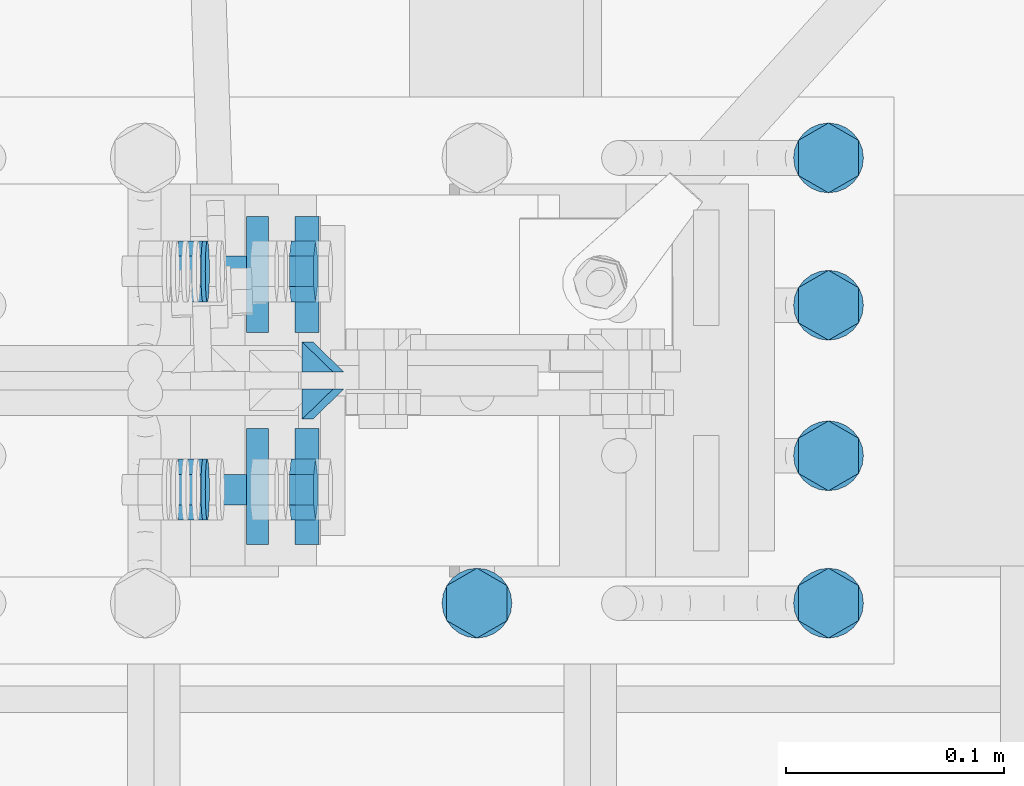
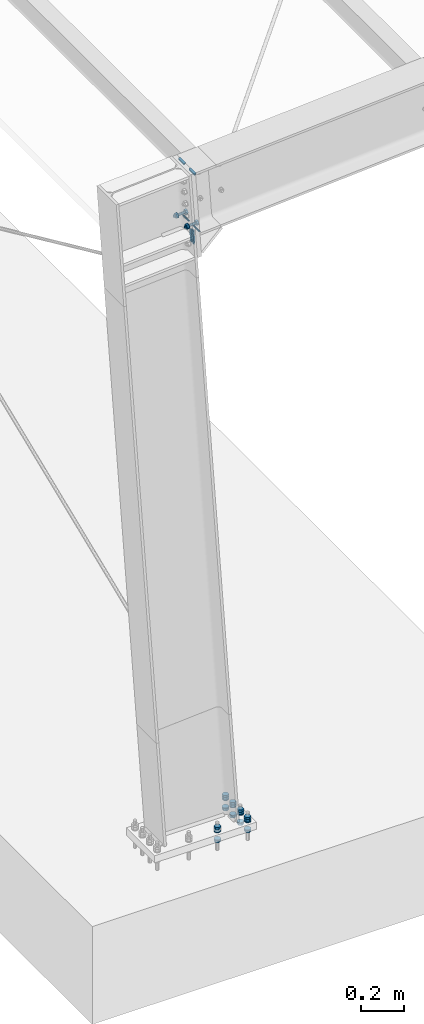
# One storey, part 27 of 72: 32 mechanical fasteners, 12 fasteners.
"""IFC4 building model written with IfcOpenShell, lengths in metres."""

from ifc_helpers import new_model, si_unit, frame, origin_with_axes, place, context, project, spatial, polyline, outline, extrude, type_object, element, save


model = new_model("IFC4")

# Units and contexts
model_context = context("Model", 3, precision=1e-05, world=origin_with_axes())
ifc_project = project(units=[si_unit("LENGTHUNIT", "METRE"), si_unit("AREAUNIT", "SQUARE_METRE"), si_unit("VOLUMEUNIT", "CUBIC_METRE"), si_unit("MASSUNIT", "GRAM", prefix="KILO"), si_unit("TIMEUNIT", "SECOND"), si_unit("PLANEANGLEUNIT", "RADIAN"), si_unit("SOLIDANGLEUNIT", "STERADIAN"), si_unit("THERMODYNAMICTEMPERATUREUNIT", "DEGREE_CELSIUS")], contexts=[model_context])

# Site, building, storey
placement_1 = place(None, origin_with_axes())
site = spatial("IfcSite", under=ifc_project, at=placement_1, Name="Italia", CompositionType="ELEMENT")
building = spatial("IfcBuilding", under=site, at=placement_1, Name="Pensilina", CompositionType="ELEMENT")
storey = spatial("IfcBuildingStorey", under=building, at=placement_1, Name="Storey 0", CompositionType="ELEMENT", Elevation=0.0)

# Mechanical fasteners
mechanical_fastener_type_1 = type_object("IfcMechanicalFastenerType", Name="Collegamento 0001_-196", PredefinedType="BOLT")
placement_2 = place(placement_1, origin_with_axes())
mechanical_fastener_1_placement = place(placement_2, origin_with_axes())
element("IfcMechanicalFastener", 1, at=mechanical_fastener_1_placement, inside=storey, type_object=mechanical_fastener_type_1, Name="Collegamento 0001_-196", NominalDiameter=0.016, context=model_context, shape_type="SweptSolid", body=[
    extrude(outline(polyline([(0.0, 0.0, 0.0), (0.016, 0.0, 0.0), (0.024, -0.0138565, 0.0), (0.016, -0.0277129, 0.0), (0.0, -0.0277129, 0.0), (-0.008, -0.0138565, 0.0), (0.0, 0.0, 0.0)])), frame((0.99419, -0.11, 0.120508), z_axis=(0.0, 0.0, 1.0), x_axis=(0.0, 1.0, 0.0)), (0.0, 0.0, 1.0), 0.0128),
])
mechanical_fastener_type_2 = type_object("IfcMechanicalFastenerType", Name="Collegamento 0001_-196", PredefinedType="BOLT")
mechanical_fastener_2_placement = place(placement_2, origin_with_axes())
element("IfcMechanicalFastener", 2, at=mechanical_fastener_2_placement, inside=storey, type_object=mechanical_fastener_type_2, Name="Collegamento 0001_-196", NominalDiameter=0.016, context=model_context, shape_type="SweptSolid", body=[
    extrude(outline(polyline([(0.0, 0.0, 0.0), (0.016, 0.0, 0.0), (0.024, -0.0138565, 0.0), (0.016, -0.0277129, 0.0), (0.0, -0.0277129, 0.0), (-0.008, -0.0138565, 0.0), (0.0, 0.0, 0.0)])), frame((0.99419, -0.11, 0.0469081), z_axis=(0.0, 0.0, 1.0), x_axis=(0.0, 1.0, 0.0)), (0.0, 0.0, 1.0), 0.0128),
])
mechanical_fastener_type_3 = type_object("IfcMechanicalFastenerType", Name="Collegamento 0001_-196", PredefinedType="BOLT")
mechanical_fastener_3_placement = place(placement_2, origin_with_axes())
element("IfcMechanicalFastener", 3, at=mechanical_fastener_3_placement, inside=storey, type_object=mechanical_fastener_type_3, Name="Collegamento 0001_-196", NominalDiameter=0.032, context=model_context, shape_type="SweptSolid", body=[
    extrude(outline(polyline([(0.0, 0.0, 0.0), (-0.000545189, -0.00414109, 0.0), (-0.00214359, -0.00800002, 0.0), (-0.0046863, -0.0113137, 0.0), (-0.008, -0.0138564, 0.0), (-0.0118589, -0.0154548, 0.0), (-0.016, -0.016, 0.0), (-0.0201411, -0.0154548, 0.0), (-0.024, -0.0138564, 0.0), (-0.0273137, -0.0113137, 0.0), (-0.0298564, -0.00800002, 0.0), (-0.0314548, -0.00414109, 0.0), (-0.032, 0.0, 0.0), (-0.0314548, 0.00414109, 0.0), (-0.0298564, 0.00800002, 0.0), (-0.0273137, 0.0113137, 0.0), (-0.024, 0.0138564, 0.0), (-0.0201411, 0.0154548, 0.0), (-0.016, 0.016, 0.0), (-0.0118589, 0.0154548, 0.0), (-0.008, 0.0138564, 0.0), (-0.0046863, 0.0113137, 0.0), (-0.00214359, 0.00800002, 0.0), (-0.000545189, 0.00414109, 0.0), (0.0, 0.0, 0.0)])), frame((1.00805, -0.086, 0.103708), z_axis=(0.0, 0.0, 1.0), x_axis=(0.0, 1.0, 0.0)), (0.0, 0.0, 1.0), 0.004),
])
mechanical_fastener_type_4 = type_object("IfcMechanicalFastenerType", Name="Collegamento 0001_-196", PredefinedType="BOLT")
mechanical_fastener_4_placement = place(placement_2, origin_with_axes())
element("IfcMechanicalFastener", 4, at=mechanical_fastener_4_placement, inside=storey, type_object=mechanical_fastener_type_4, Name="Collegamento 0001_-196", NominalDiameter=0.032, context=model_context, shape_type="SweptSolid", body=[
    extrude(outline(polyline([(0.0, 0.0, 0.0), (-0.000545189, -0.00414109, 0.0), (-0.00214359, -0.00800002, 0.0), (-0.0046863, -0.0113137, 0.0), (-0.008, -0.0138564, 0.0), (-0.0118589, -0.0154548, 0.0), (-0.016, -0.016, 0.0), (-0.0201411, -0.0154548, 0.0), (-0.024, -0.0138564, 0.0), (-0.0273137, -0.0113137, 0.0), (-0.0298564, -0.00800002, 0.0), (-0.0314548, -0.00414109, 0.0), (-0.032, 0.0, 0.0), (-0.0314548, 0.00414109, 0.0), (-0.0298564, 0.00800002, 0.0), (-0.0273137, 0.0113137, 0.0), (-0.024, 0.0138564, 0.0), (-0.0201411, 0.0154548, 0.0), (-0.016, 0.016, 0.0), (-0.0118589, 0.0154548, 0.0), (-0.008, 0.0138564, 0.0), (-0.0046863, 0.0113137, 0.0), (-0.00214359, 0.00800002, 0.0), (-0.000545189, 0.00414109, 0.0), (0.0, 0.0, 0.0)])), frame((1.00805, -0.086, 0.0597081), z_axis=(0.0, 0.0, 1.0), x_axis=(0.0, 1.0, 0.0)), (0.0, 0.0, 1.0), 0.004),
])
mechanical_fastener_type_5 = type_object("IfcMechanicalFastenerType", Name="Collegamento 0001_-196", PredefinedType="BOLT")
mechanical_fastener_5_placement = place(placement_2, origin_with_axes())
element("IfcMechanicalFastener", 5, at=mechanical_fastener_5_placement, inside=storey, type_object=mechanical_fastener_type_5, Name="Collegamento 0001_-196", NominalDiameter=0.016, context=model_context, shape_type="SweptSolid", body=[
    extrude(outline(polyline([(0.0, 0.0, 0.0), (0.016, 0.0, 0.0), (0.024, -0.0138564, 0.0), (0.016, -0.0277128, 0.0), (0.0, -0.0277128, 0.0), (-0.008, -0.0138564, 0.0), (0.0, 0.0, 0.0)])), frame((1.15527, 0.094, 0.107708), z_axis=(0.0, 0.0, 1.0), x_axis=(0.0, 1.0, 0.0)), (0.0, 0.0, 1.0), 0.0128),
])
mechanical_fastener_type_6 = type_object("IfcMechanicalFastenerType", Name="Collegamento 0001_-196", PredefinedType="BOLT")
mechanical_fastener_6_placement = place(placement_2, origin_with_axes())
element("IfcMechanicalFastener", 6, at=mechanical_fastener_6_placement, inside=storey, type_object=mechanical_fastener_type_6, Name="Collegamento 0001_-196", NominalDiameter=0.016, context=model_context, shape_type="SweptSolid", body=[
    extrude(outline(polyline([(0.0, 0.0, 0.0), (0.016, 0.0, 0.0), (0.024, -0.0138564, 0.0), (0.016, -0.0277128, 0.0), (0.0, -0.0277128, 0.0), (-0.008, -0.0138564, 0.0), (0.0, 0.0, 0.0)])), frame((1.15527, 0.094, 0.120508), z_axis=(0.0, 0.0, 1.0), x_axis=(0.0, 1.0, 0.0)), (0.0, 0.0, 1.0), 0.0128),
])
mechanical_fastener_type_7 = type_object("IfcMechanicalFastenerType", Name="Collegamento 0001_-196", PredefinedType="BOLT")
mechanical_fastener_7_placement = place(placement_2, origin_with_axes())
element("IfcMechanicalFastener", 7, at=mechanical_fastener_7_placement, inside=storey, type_object=mechanical_fastener_type_7, Name="Collegamento 0001_-196", NominalDiameter=0.016, context=model_context, shape_type="SweptSolid", body=[
    extrude(outline(polyline([(0.0, 0.0, 0.0), (0.016, 0.0, 0.0), (0.024, -0.0138564, 0.0), (0.016, -0.0277128, 0.0), (0.0, -0.0277128, 0.0), (-0.008, -0.0138564, 0.0), (0.0, 0.0, 0.0)])), frame((1.15527, 0.094, 0.0469081), z_axis=(0.0, 0.0, 1.0), x_axis=(0.0, 1.0, 0.0)), (0.0, 0.0, 1.0), 0.0128),
])
mechanical_fastener_type_8 = type_object("IfcMechanicalFastenerType", Name="Collegamento 0001_-196", PredefinedType="BOLT")
mechanical_fastener_8_placement = place(placement_2, origin_with_axes())
element("IfcMechanicalFastener", 8, at=mechanical_fastener_8_placement, inside=storey, type_object=mechanical_fastener_type_8, Name="Collegamento 0001_-196", NominalDiameter=0.032, context=model_context, shape_type="SweptSolid", body=[
    extrude(outline(polyline([(0.0, 0.0, 0.0), (-0.000545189, -0.00414109, 0.0), (-0.00214359, -0.00800002, 0.0), (-0.0046863, -0.0113137, 0.0), (-0.008, -0.0138564, 0.0), (-0.0118589, -0.0154548, 0.0), (-0.016, -0.016, 0.0), (-0.0201411, -0.0154548, 0.0), (-0.024, -0.0138564, 0.0), (-0.0273137, -0.0113137, 0.0), (-0.0298564, -0.00800002, 0.0), (-0.0314548, -0.00414109, 0.0), (-0.032, 0.0, 0.0), (-0.0314548, 0.00414109, 0.0), (-0.0298564, 0.00800002, 0.0), (-0.0273137, 0.0113137, 0.0), (-0.024, 0.0138564, 0.0), (-0.0201411, 0.0154548, 0.0), (-0.016, 0.016, 0.0), (-0.0118589, 0.0154548, 0.0), (-0.008, 0.0138564, 0.0), (-0.0046863, 0.0113137, 0.0), (-0.00214359, 0.00800002, 0.0), (-0.000545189, 0.00414109, 0.0), (0.0, 0.0, 0.0)])), frame((1.16913, 0.118, 0.103708), z_axis=(0.0, 0.0, 1.0), x_axis=(0.0, 1.0, 0.0)), (0.0, 0.0, 1.0), 0.004),
])
mechanical_fastener_type_9 = type_object("IfcMechanicalFastenerType", Name="Collegamento 0001_-196", PredefinedType="BOLT")
mechanical_fastener_9_placement = place(placement_2, origin_with_axes())
element("IfcMechanicalFastener", 9, at=mechanical_fastener_9_placement, inside=storey, type_object=mechanical_fastener_type_9, Name="Collegamento 0001_-196", NominalDiameter=0.032, context=model_context, shape_type="SweptSolid", body=[
    extrude(outline(polyline([(0.0, 0.0, 0.0), (-0.000545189, -0.00414109, 0.0), (-0.00214359, -0.00800002, 0.0), (-0.0046863, -0.0113137, 0.0), (-0.008, -0.0138564, 0.0), (-0.0118589, -0.0154548, 0.0), (-0.016, -0.016, 0.0), (-0.0201411, -0.0154548, 0.0), (-0.024, -0.0138564, 0.0), (-0.0273137, -0.0113137, 0.0), (-0.0298564, -0.00800002, 0.0), (-0.0314548, -0.00414109, 0.0), (-0.032, 0.0, 0.0), (-0.0314548, 0.00414109, 0.0), (-0.0298564, 0.00800002, 0.0), (-0.0273137, 0.0113137, 0.0), (-0.024, 0.0138564, 0.0), (-0.0201411, 0.0154548, 0.0), (-0.016, 0.016, 0.0), (-0.0118589, 0.0154548, 0.0), (-0.008, 0.0138564, 0.0), (-0.0046863, 0.0113137, 0.0), (-0.00214359, 0.00800002, 0.0), (-0.000545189, 0.00414109, 0.0), (0.0, 0.0, 0.0)])), frame((1.16913, 0.118, 0.0597081), z_axis=(0.0, 0.0, 1.0), x_axis=(0.0, 1.0, 0.0)), (0.0, 0.0, 1.0), 0.004),
])
mechanical_fastener_type_10 = type_object("IfcMechanicalFastenerType", Name="Collegamento 0001_-196", PredefinedType="BOLT")
mechanical_fastener_10_placement = place(placement_2, origin_with_axes())
element("IfcMechanicalFastener", 10, at=mechanical_fastener_10_placement, inside=storey, type_object=mechanical_fastener_type_10, Name="Collegamento 0001_-196", NominalDiameter=0.016, context=model_context, shape_type="SweptSolid", body=[
    extrude(outline(polyline([(0.0, 0.0, 0.0), (0.016, 0.0, 0.0), (0.024, -0.0138564, 0.0), (0.016, -0.0277128, 0.0), (0.0, -0.0277128, 0.0), (-0.008, -0.0138564, 0.0), (0.0, 0.0, 0.0)])), frame((1.15527, 0.0265, 0.107708), z_axis=(0.0, 0.0, 1.0), x_axis=(0.0, 1.0, 0.0)), (0.0, 0.0, 1.0), 0.0128),
])
mechanical_fastener_type_11 = type_object("IfcMechanicalFastenerType", Name="Collegamento 0001_-196", PredefinedType="BOLT")
mechanical_fastener_11_placement = place(placement_2, origin_with_axes())
element("IfcMechanicalFastener", 11, at=mechanical_fastener_11_placement, inside=storey, type_object=mechanical_fastener_type_11, Name="Collegamento 0001_-196", NominalDiameter=0.016, context=model_context, shape_type="SweptSolid", body=[
    extrude(outline(polyline([(0.0, 0.0, 0.0), (0.016, 0.0, 0.0), (0.024, -0.0138564, 0.0), (0.016, -0.0277128, 0.0), (0.0, -0.0277128, 0.0), (-0.008, -0.0138564, 0.0), (0.0, 0.0, 0.0)])), frame((1.15527, 0.0265, 0.120508), z_axis=(0.0, 0.0, 1.0), x_axis=(0.0, 1.0, 0.0)), (0.0, 0.0, 1.0), 0.0128),
])
mechanical_fastener_type_12 = type_object("IfcMechanicalFastenerType", Name="Collegamento 0001_-196", PredefinedType="BOLT")
mechanical_fastener_12_placement = place(placement_2, origin_with_axes())
element("IfcMechanicalFastener", 12, at=mechanical_fastener_12_placement, inside=storey, type_object=mechanical_fastener_type_12, Name="Collegamento 0001_-196", NominalDiameter=0.016, context=model_context, shape_type="SweptSolid", body=[
    extrude(outline(polyline([(0.0, 0.0, 0.0), (0.016, 0.0, 0.0), (0.024, -0.0138564, 0.0), (0.016, -0.0277128, 0.0), (0.0, -0.0277128, 0.0), (-0.008, -0.0138564, 0.0), (0.0, 0.0, 0.0)])), frame((1.15527, 0.0265, 0.0469081), z_axis=(0.0, 0.0, 1.0), x_axis=(0.0, 1.0, 0.0)), (0.0, 0.0, 1.0), 0.0128),
])
mechanical_fastener_type_13 = type_object("IfcMechanicalFastenerType", Name="Collegamento 0001_-196", PredefinedType="BOLT")
mechanical_fastener_13_placement = place(placement_2, origin_with_axes())
element("IfcMechanicalFastener", 13, at=mechanical_fastener_13_placement, inside=storey, type_object=mechanical_fastener_type_13, Name="Collegamento 0001_-196", NominalDiameter=0.032, context=model_context, shape_type="SweptSolid", body=[
    extrude(outline(polyline([(0.0, 0.0, 0.0), (-0.000545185, -0.00414109, 0.0), (-0.00214359, -0.00800002, 0.0), (-0.00468629, -0.0113137, 0.0), (-0.008, -0.0138564, 0.0), (-0.0118589, -0.0154548, 0.0), (-0.016, -0.016, 0.0), (-0.0201411, -0.0154548, 0.0), (-0.024, -0.0138564, 0.0), (-0.0273137, -0.0113137, 0.0), (-0.0298564, -0.00800002, 0.0), (-0.0314548, -0.00414109, 0.0), (-0.032, 0.0, 0.0), (-0.0314548, 0.00414109, 0.0), (-0.0298564, 0.00800002, 0.0), (-0.0273137, 0.0113137, 0.0), (-0.024, 0.0138564, 0.0), (-0.0201411, 0.0154548, 0.0), (-0.016, 0.016, 0.0), (-0.0118589, 0.0154548, 0.0), (-0.008, 0.0138564, 0.0), (-0.00468629, 0.0113137, 0.0), (-0.00214359, 0.00800002, 0.0), (-0.000545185, 0.00414109, 0.0), (0.0, 0.0, 0.0)])), frame((1.16913, 0.0505, 0.103708), z_axis=(0.0, 0.0, 1.0), x_axis=(0.0, 1.0, 0.0)), (0.0, 0.0, 1.0), 0.004),
])
mechanical_fastener_type_14 = type_object("IfcMechanicalFastenerType", Name="Collegamento 0001_-196", PredefinedType="BOLT")
mechanical_fastener_14_placement = place(placement_2, origin_with_axes())
element("IfcMechanicalFastener", 14, at=mechanical_fastener_14_placement, inside=storey, type_object=mechanical_fastener_type_14, Name="Collegamento 0001_-196", NominalDiameter=0.032, context=model_context, shape_type="SweptSolid", body=[
    extrude(outline(polyline([(0.0, 0.0, 0.0), (-0.000545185, -0.00414109, 0.0), (-0.00214359, -0.00800002, 0.0), (-0.00468629, -0.0113137, 0.0), (-0.008, -0.0138564, 0.0), (-0.0118589, -0.0154548, 0.0), (-0.016, -0.016, 0.0), (-0.0201411, -0.0154548, 0.0), (-0.024, -0.0138564, 0.0), (-0.0273137, -0.0113137, 0.0), (-0.0298564, -0.00800002, 0.0), (-0.0314548, -0.00414109, 0.0), (-0.032, 0.0, 0.0), (-0.0314548, 0.00414109, 0.0), (-0.0298564, 0.00800002, 0.0), (-0.0273137, 0.0113137, 0.0), (-0.024, 0.0138564, 0.0), (-0.0201411, 0.0154548, 0.0), (-0.016, 0.016, 0.0), (-0.0118589, 0.0154548, 0.0), (-0.008, 0.0138564, 0.0), (-0.00468629, 0.0113137, 0.0), (-0.00214359, 0.00800002, 0.0), (-0.000545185, 0.00414109, 0.0), (0.0, 0.0, 0.0)])), frame((1.16913, 0.0505, 0.0597081), z_axis=(0.0, 0.0, 1.0), x_axis=(0.0, 1.0, 0.0)), (0.0, 0.0, 1.0), 0.004),
])
mechanical_fastener_type_15 = type_object("IfcMechanicalFastenerType", Name="Collegamento 0001_-196", PredefinedType="BOLT")
mechanical_fastener_15_placement = place(placement_2, origin_with_axes())
element("IfcMechanicalFastener", 15, at=mechanical_fastener_15_placement, inside=storey, type_object=mechanical_fastener_type_15, Name="Collegamento 0001_-196", NominalDiameter=0.016, context=model_context, shape_type="SweptSolid", body=[
    extrude(outline(polyline([(0.0, 0.0, 0.0), (0.016, 0.0, 0.0), (0.024, -0.0138564, 0.0), (0.016, -0.0277128, 0.0), (0.0, -0.0277128, 0.0), (-0.008, -0.0138564, 0.0), (0.0, 0.0, 0.0)])), frame((1.15527, -0.0425, 0.107708), z_axis=(0.0, 0.0, 1.0), x_axis=(0.0, 1.0, 0.0)), (0.0, 0.0, 1.0), 0.0128),
])
mechanical_fastener_type_16 = type_object("IfcMechanicalFastenerType", Name="Collegamento 0001_-196", PredefinedType="BOLT")
mechanical_fastener_16_placement = place(placement_2, origin_with_axes())
element("IfcMechanicalFastener", 16, at=mechanical_fastener_16_placement, inside=storey, type_object=mechanical_fastener_type_16, Name="Collegamento 0001_-196", NominalDiameter=0.016, context=model_context, shape_type="SweptSolid", body=[
    extrude(outline(polyline([(0.0, 0.0, 0.0), (0.016, 0.0, 0.0), (0.024, -0.0138564, 0.0), (0.016, -0.0277128, 0.0), (0.0, -0.0277128, 0.0), (-0.008, -0.0138564, 0.0), (0.0, 0.0, 0.0)])), frame((1.15527, -0.0425, 0.120508), z_axis=(0.0, 0.0, 1.0), x_axis=(0.0, 1.0, 0.0)), (0.0, 0.0, 1.0), 0.0128),
])
mechanical_fastener_type_17 = type_object("IfcMechanicalFastenerType", Name="Collegamento 0001_-196", PredefinedType="BOLT")
mechanical_fastener_17_placement = place(placement_2, origin_with_axes())
element("IfcMechanicalFastener", 17, at=mechanical_fastener_17_placement, inside=storey, type_object=mechanical_fastener_type_17, Name="Collegamento 0001_-196", NominalDiameter=0.016, context=model_context, shape_type="SweptSolid", body=[
    extrude(outline(polyline([(0.0, 0.0, 0.0), (0.016, 0.0, 0.0), (0.024, -0.0138564, 0.0), (0.016, -0.0277128, 0.0), (0.0, -0.0277128, 0.0), (-0.008, -0.0138564, 0.0), (0.0, 0.0, 0.0)])), frame((1.15527, -0.0425, 0.0469081), z_axis=(0.0, 0.0, 1.0), x_axis=(0.0, 1.0, 0.0)), (0.0, 0.0, 1.0), 0.0128),
])
mechanical_fastener_type_18 = type_object("IfcMechanicalFastenerType", Name="Collegamento 0001_-196", PredefinedType="BOLT")
mechanical_fastener_18_placement = place(placement_2, origin_with_axes())
element("IfcMechanicalFastener", 18, at=mechanical_fastener_18_placement, inside=storey, type_object=mechanical_fastener_type_18, Name="Collegamento 0001_-196", NominalDiameter=0.032, context=model_context, shape_type="SweptSolid", body=[
    extrude(outline(polyline([(0.0, 0.0, 0.0), (-0.000545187, -0.00414109, 0.0), (-0.00214359, -0.00800002, 0.0), (-0.00468629, -0.0113137, 0.0), (-0.008, -0.0138564, 0.0), (-0.0118589, -0.0154548, 0.0), (-0.016, -0.016, 0.0), (-0.0201411, -0.0154548, 0.0), (-0.024, -0.0138564, 0.0), (-0.0273137, -0.0113137, 0.0), (-0.0298564, -0.00800002, 0.0), (-0.0314548, -0.00414109, 0.0), (-0.032, 0.0, 0.0), (-0.0314548, 0.00414109, 0.0), (-0.0298564, 0.00800002, 0.0), (-0.0273137, 0.0113137, 0.0), (-0.024, 0.0138564, 0.0), (-0.0201411, 0.0154548, 0.0), (-0.016, 0.016, 0.0), (-0.0118589, 0.0154548, 0.0), (-0.008, 0.0138564, 0.0), (-0.00468629, 0.0113137, 0.0), (-0.00214359, 0.00800002, 0.0), (-0.000545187, 0.00414109, 0.0), (0.0, 0.0, 0.0)])), frame((1.16913, -0.0185, 0.103708), z_axis=(0.0, 0.0, 1.0), x_axis=(0.0, 1.0, 0.0)), (0.0, 0.0, 1.0), 0.004),
])
mechanical_fastener_type_19 = type_object("IfcMechanicalFastenerType", Name="Collegamento 0001_-196", PredefinedType="BOLT")
mechanical_fastener_19_placement = place(placement_2, origin_with_axes())
element("IfcMechanicalFastener", 19, at=mechanical_fastener_19_placement, inside=storey, type_object=mechanical_fastener_type_19, Name="Collegamento 0001_-196", NominalDiameter=0.032, context=model_context, shape_type="SweptSolid", body=[
    extrude(outline(polyline([(0.0, 0.0, 0.0), (-0.000545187, -0.00414109, 0.0), (-0.00214359, -0.00800002, 0.0), (-0.00468629, -0.0113137, 0.0), (-0.008, -0.0138564, 0.0), (-0.0118589, -0.0154548, 0.0), (-0.016, -0.016, 0.0), (-0.0201411, -0.0154548, 0.0), (-0.024, -0.0138564, 0.0), (-0.0273137, -0.0113137, 0.0), (-0.0298564, -0.00800002, 0.0), (-0.0314548, -0.00414109, 0.0), (-0.032, 0.0, 0.0), (-0.0314548, 0.00414109, 0.0), (-0.0298564, 0.00800002, 0.0), (-0.0273137, 0.0113137, 0.0), (-0.024, 0.0138564, 0.0), (-0.0201411, 0.0154548, 0.0), (-0.016, 0.016, 0.0), (-0.0118589, 0.0154548, 0.0), (-0.008, 0.0138564, 0.0), (-0.00468629, 0.0113137, 0.0), (-0.00214359, 0.00800002, 0.0), (-0.000545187, 0.00414109, 0.0), (0.0, 0.0, 0.0)])), frame((1.16913, -0.0185, 0.0597081), z_axis=(0.0, 0.0, 1.0), x_axis=(0.0, 1.0, 0.0)), (0.0, 0.0, 1.0), 0.004),
])
mechanical_fastener_type_20 = type_object("IfcMechanicalFastenerType", Name="Collegamento 0001_-196", PredefinedType="BOLT")
mechanical_fastener_20_placement = place(placement_2, origin_with_axes())
element("IfcMechanicalFastener", 20, at=mechanical_fastener_20_placement, inside=storey, type_object=mechanical_fastener_type_20, Name="Collegamento 0001_-196", NominalDiameter=0.016, context=model_context, shape_type="SweptSolid", body=[
    extrude(outline(polyline([(0.0, 0.0, 0.0), (0.016, 0.0, 0.0), (0.024, -0.0138564, 0.0), (0.016, -0.0277128, 0.0), (0.0, -0.0277128, 0.0), (-0.008, -0.0138564, 0.0), (0.0, 0.0, 0.0)])), frame((1.15527, -0.11, 0.107708), z_axis=(0.0, 0.0, 1.0), x_axis=(0.0, 1.0, 0.0)), (0.0, 0.0, 1.0), 0.0128),
])
mechanical_fastener_type_21 = type_object("IfcMechanicalFastenerType", Name="Collegamento 0001_-196", PredefinedType="BOLT")
mechanical_fastener_21_placement = place(placement_2, origin_with_axes())
element("IfcMechanicalFastener", 21, at=mechanical_fastener_21_placement, inside=storey, type_object=mechanical_fastener_type_21, Name="Collegamento 0001_-196", NominalDiameter=0.016, context=model_context, shape_type="SweptSolid", body=[
    extrude(outline(polyline([(0.0, 0.0, 0.0), (0.016, 0.0, 0.0), (0.024, -0.0138564, 0.0), (0.016, -0.0277128, 0.0), (0.0, -0.0277128, 0.0), (-0.008, -0.0138564, 0.0), (0.0, 0.0, 0.0)])), frame((1.15527, -0.11, 0.120508), z_axis=(0.0, 0.0, 1.0), x_axis=(0.0, 1.0, 0.0)), (0.0, 0.0, 1.0), 0.0128),
])
mechanical_fastener_type_22 = type_object("IfcMechanicalFastenerType", Name="Collegamento 0001_-196", PredefinedType="BOLT")
mechanical_fastener_22_placement = place(placement_2, origin_with_axes())
element("IfcMechanicalFastener", 22, at=mechanical_fastener_22_placement, inside=storey, type_object=mechanical_fastener_type_22, Name="Collegamento 0001_-196", NominalDiameter=0.016, context=model_context, shape_type="SweptSolid", body=[
    extrude(outline(polyline([(0.0, 0.0, 0.0), (0.016, 0.0, 0.0), (0.024, -0.0138564, 0.0), (0.016, -0.0277128, 0.0), (0.0, -0.0277128, 0.0), (-0.008, -0.0138564, 0.0), (0.0, 0.0, 0.0)])), frame((1.15527, -0.11, 0.0469081), z_axis=(0.0, 0.0, 1.0), x_axis=(0.0, 1.0, 0.0)), (0.0, 0.0, 1.0), 0.0128),
])
mechanical_fastener_type_23 = type_object("IfcMechanicalFastenerType", Name="Collegamento 0001_-196", PredefinedType="BOLT")
mechanical_fastener_23_placement = place(placement_2, origin_with_axes())
element("IfcMechanicalFastener", 23, at=mechanical_fastener_23_placement, inside=storey, type_object=mechanical_fastener_type_23, Name="Collegamento 0001_-196", NominalDiameter=0.032, context=model_context, shape_type="SweptSolid", body=[
    extrude(outline(polyline([(0.0, 0.0, 0.0), (-0.000545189, -0.00414109, 0.0), (-0.00214359, -0.00800002, 0.0), (-0.0046863, -0.0113137, 0.0), (-0.008, -0.0138564, 0.0), (-0.0118589, -0.0154548, 0.0), (-0.016, -0.016, 0.0), (-0.0201411, -0.0154548, 0.0), (-0.024, -0.0138564, 0.0), (-0.0273137, -0.0113137, 0.0), (-0.0298564, -0.00800002, 0.0), (-0.0314548, -0.00414109, 0.0), (-0.032, 0.0, 0.0), (-0.0314548, 0.00414109, 0.0), (-0.0298564, 0.00800002, 0.0), (-0.0273137, 0.0113137, 0.0), (-0.024, 0.0138564, 0.0), (-0.0201411, 0.0154548, 0.0), (-0.016, 0.016, 0.0), (-0.0118589, 0.0154548, 0.0), (-0.008, 0.0138564, 0.0), (-0.0046863, 0.0113137, 0.0), (-0.00214359, 0.00800002, 0.0), (-0.000545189, 0.00414109, 0.0), (0.0, 0.0, 0.0)])), frame((1.16913, -0.086, 0.103708), z_axis=(0.0, 0.0, 1.0), x_axis=(0.0, 1.0, 0.0)), (0.0, 0.0, 1.0), 0.004),
])
mechanical_fastener_type_24 = type_object("IfcMechanicalFastenerType", Name="Collegamento 0001_-196", PredefinedType="BOLT")
mechanical_fastener_24_placement = place(placement_2, origin_with_axes())
element("IfcMechanicalFastener", 24, at=mechanical_fastener_24_placement, inside=storey, type_object=mechanical_fastener_type_24, Name="Collegamento 0001_-196", NominalDiameter=0.032, context=model_context, shape_type="SweptSolid", body=[
    extrude(outline(polyline([(0.0, 0.0, 0.0), (-0.000545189, -0.00414109, 0.0), (-0.00214359, -0.00800002, 0.0), (-0.0046863, -0.0113137, 0.0), (-0.008, -0.0138564, 0.0), (-0.0118589, -0.0154548, 0.0), (-0.016, -0.016, 0.0), (-0.0201411, -0.0154548, 0.0), (-0.024, -0.0138564, 0.0), (-0.0273137, -0.0113137, 0.0), (-0.0298564, -0.00800002, 0.0), (-0.0314548, -0.00414109, 0.0), (-0.032, 0.0, 0.0), (-0.0314548, 0.00414109, 0.0), (-0.0298564, 0.00800002, 0.0), (-0.0273137, 0.0113137, 0.0), (-0.024, 0.0138564, 0.0), (-0.0201411, 0.0154548, 0.0), (-0.016, 0.016, 0.0), (-0.0118589, 0.0154548, 0.0), (-0.008, 0.0138564, 0.0), (-0.0046863, 0.0113137, 0.0), (-0.00214359, 0.00800002, 0.0), (-0.000545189, 0.00414109, 0.0), (0.0, 0.0, 0.0)])), frame((1.16913, -0.086, 0.0597081), z_axis=(0.0, 0.0, 1.0), x_axis=(0.0, 1.0, 0.0)), (0.0, 0.0, 1.0), 0.004),
])

# Fasteners
fastener_type_1 = type_object("IfcFastenerType", Name="Collegamento 0101_0201", PredefinedType="WELD")
fastener_1_placement = place(placement_2, origin_with_axes())
element("IfcFastener", 25, at=fastener_1_placement, inside=storey, type_object=fastener_type_1, Name="Collegamento 0101_0201", context=model_context, shape_type="SweptSolid", body=[
    extrude(outline(polyline([(0.0, 0.0, 0.0), (-0.00947309, 0.0105422, 0.0), (0.000676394, 0.00984502, 0.0), (0.0, 0.0, 0.0)])), frame((0.903157, 0.02195, 3.80624), z_axis=(0.0, 1.0, 0.0), x_axis=(-1.0, 0.0, 0.0)), (0.0, 0.0, 1.0), 0.0531),
])
fastener_type_2 = type_object("IfcFastenerType", Name="Collegamento 0101_0201", PredefinedType="WELD")
fastener_2_placement = place(placement_2, origin_with_axes())
element("IfcFastener", 26, at=fastener_2_placement, inside=storey, type_object=fastener_type_2, Name="Collegamento 0101_0201", context=model_context, shape_type="SweptSolid", body=[
    extrude(outline(polyline([(0.0, 0.0, 0.0), (0.0108258, -0.00914764, 0.0), (0.000676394, -0.00984478, 0.0), (0.0, 0.0, 0.0)])), frame((0.924744, 0.07505, 3.49202), z_axis=(0.0, -1.0, 0.0), x_axis=(1.0, 0.0, 0.0)), (0.0, 0.0, 1.0), 0.0531),
])
fastener_type_3 = type_object("IfcFastenerType", Name="Collegamento 0101_0201", PredefinedType="WELD")
fastener_3_placement = place(placement_2, origin_with_axes())
element("IfcFastener", 27, at=fastener_3_placement, inside=storey, type_object=fastener_type_3, Name="Collegamento 0101_0201", context=model_context, shape_type="SweptSolid", body=[
    extrude(outline(polyline([(0.0, 0.0, 0.0), (0.0108258, -0.00914764, 0.0), (0.000676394, -0.00984478, 0.0), (0.0, 0.0, 0.0)])), frame((0.924744, -0.02195, 3.49202), z_axis=(0.0, -1.0, 0.0), x_axis=(1.0, 0.0, 0.0)), (0.0, 0.0, 1.0), 0.0531),
])
fastener_type_4 = type_object("IfcFastenerType", Name="Collegamento 0101_0201", PredefinedType="WELD")
fastener_4_placement = place(placement_2, origin_with_axes())
element("IfcFastener", 28, at=fastener_4_placement, inside=storey, type_object=fastener_type_4, Name="Collegamento 0101_0201", context=model_context, shape_type="SweptSolid", body=[
    extrude(outline(polyline([(0.0, 0.0, 0.0), (-0.00947309, 0.0105422, 0.0), (0.000676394, 0.00984502, 0.0), (0.0, 0.0, 0.0)])), frame((0.903157, -0.07505, 3.80624), z_axis=(0.0, 1.0, 0.0), x_axis=(-1.0, 0.0, 0.0)), (0.0, 0.0, 1.0), 0.0531),
])
fastener_type_5 = type_object("IfcFastenerType", Name="Collegamento 0101_0201", PredefinedType="WELD")
fastener_5_placement = place(placement_2, origin_with_axes())
element("IfcFastener", 29, at=fastener_5_placement, inside=storey, type_object=fastener_type_5, Name="Collegamento 0101_0201", context=model_context, shape_type="SweptSolid", body=[
    extrude(outline(polyline([(0.0, 0.0, 0.0), (0.0137482, 0.0141734, 0.0), (0.0137482, 0.0, 0.0), (0.0, 0.0, 0.0)])), frame((0.932871, 0.0176982, 3.37373), z_axis=(-0.068540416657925, 0.0, 0.997648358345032), x_axis=(0.0, -1.0, 0.0)), (0.0, 0.0, 1.0), 0.0721),
])
fastener_type_6 = type_object("IfcFastenerType", Name="Collegamento 0101_0201", PredefinedType="WELD")
fastener_6_placement = place(placement_2, origin_with_axes())
element("IfcFastener", 30, at=fastener_6_placement, inside=storey, type_object=fastener_type_6, Name="Collegamento 0101_0201", context=model_context, shape_type="SweptSolid", body=[
    extrude(outline(polyline([(0.0, 0.0, 0.0), (0.0137482, 0.0141734, 0.0), (0.0137482, 0.0, 0.0), (0.0, 0.0, 0.0)])), frame((0.927929, -0.0176982, 3.44566), z_axis=(0.068540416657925, 0.0, -0.997648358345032), x_axis=(0.0, 1.0, 0.0)), (0.0, 0.0, 1.0), 0.0721),
])
fastener_type_7 = type_object("IfcFastenerType", Name="Collegamento 0101_0201", PredefinedType="WELD")
fastener_7_placement = place(placement_2, origin_with_axes())
element("IfcFastener", 31, at=fastener_7_placement, inside=storey, type_object=fastener_type_7, Name="Collegamento 0101_0201", context=model_context, shape_type="SweptSolid", body=[
    extrude(outline(polyline([(0.0, 0.0, 0.0), (-0.00947309, 0.0105422, 0.0), (0.000676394, 0.00984502, 0.0), (0.0, 0.0, 0.0)])), frame((0.903157, 0.02195, 3.80624), z_axis=(0.0, 1.0, 0.0), x_axis=(-1.0, 0.0, 0.0)), (0.0, 0.0, 1.0), 0.0531),
])
fastener_type_8 = type_object("IfcFastenerType", Name="Collegamento 0101_0201", PredefinedType="WELD")
fastener_8_placement = place(placement_2, origin_with_axes())
element("IfcFastener", 32, at=fastener_8_placement, inside=storey, type_object=fastener_type_8, Name="Collegamento 0101_0201", context=model_context, shape_type="SweptSolid", body=[
    extrude(outline(polyline([(0.0, 0.0, 0.0), (0.0108258, -0.00914764, 0.0), (0.000676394, -0.00984478, 0.0), (0.0, 0.0, 0.0)])), frame((0.924744, 0.07505, 3.49202), z_axis=(0.0, -1.0, 0.0), x_axis=(1.0, 0.0, 0.0)), (0.0, 0.0, 1.0), 0.0531),
])
fastener_type_9 = type_object("IfcFastenerType", Name="Collegamento 0101_0201", PredefinedType="WELD")
fastener_9_placement = place(placement_2, origin_with_axes())
element("IfcFastener", 33, at=fastener_9_placement, inside=storey, type_object=fastener_type_9, Name="Collegamento 0101_0201", context=model_context, shape_type="SweptSolid", body=[
    extrude(outline(polyline([(0.0, 0.0, 0.0), (0.0108258, -0.00914764, 0.0), (0.000676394, -0.00984478, 0.0), (0.0, 0.0, 0.0)])), frame((0.924744, -0.02195, 3.49202), z_axis=(0.0, -1.0, 0.0), x_axis=(1.0, 0.0, 0.0)), (0.0, 0.0, 1.0), 0.0531),
])
fastener_type_10 = type_object("IfcFastenerType", Name="Collegamento 0101_0201", PredefinedType="WELD")
fastener_10_placement = place(placement_2, origin_with_axes())
element("IfcFastener", 34, at=fastener_10_placement, inside=storey, type_object=fastener_type_10, Name="Collegamento 0101_0201", context=model_context, shape_type="SweptSolid", body=[
    extrude(outline(polyline([(0.0, 0.0, 0.0), (-0.00947309, 0.0105422, 0.0), (0.000676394, 0.00984502, 0.0), (0.0, 0.0, 0.0)])), frame((0.903157, -0.07505, 3.80624), z_axis=(0.0, 1.0, 0.0), x_axis=(-1.0, 0.0, 0.0)), (0.0, 0.0, 1.0), 0.0531),
])
fastener_type_11 = type_object("IfcFastenerType", Name="Collegamento 0101_0201", PredefinedType="WELD")
fastener_11_placement = place(placement_2, origin_with_axes())
element("IfcFastener", 35, at=fastener_11_placement, inside=storey, type_object=fastener_type_11, Name="Collegamento 0101_0201", context=model_context, shape_type="SweptSolid", body=[
    extrude(outline(polyline([(0.0, 0.0, 0.0), (0.0137482, 0.0141734, 0.0), (0.0137482, 0.0, 0.0), (0.0, 0.0, 0.0)])), frame((0.932871, 0.0176982, 3.37373), z_axis=(-0.068540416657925, 0.0, 0.997648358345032), x_axis=(0.0, -1.0, 0.0)), (0.0, 0.0, 1.0), 0.0721),
])
fastener_type_12 = type_object("IfcFastenerType", Name="Collegamento 0101_0201", PredefinedType="WELD")
fastener_12_placement = place(placement_2, origin_with_axes())
element("IfcFastener", 36, at=fastener_12_placement, inside=storey, type_object=fastener_type_12, Name="Collegamento 0101_0201", context=model_context, shape_type="SweptSolid", body=[
    extrude(outline(polyline([(0.0, 0.0, 0.0), (0.0137482, 0.0141734, 0.0), (0.0137482, 0.0, 0.0), (0.0, 0.0, 0.0)])), frame((0.927929, -0.0176982, 3.44566), z_axis=(0.068540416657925, 0.0, -0.997648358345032), x_axis=(0.0, 1.0, 0.0)), (0.0, 0.0, 1.0), 0.0721),
])

# Mechanical fasteners
mechanical_fastener_type_25 = type_object("IfcMechanicalFastenerType", Name="Collegamento 0101_0201", PredefinedType="BOLT")
mechanical_fastener_25_placement = place(placement_2, origin_with_axes())
element("IfcMechanicalFastener", 37, at=mechanical_fastener_25_placement, inside=storey, type_object=mechanical_fastener_type_25, Name="Collegamento 0101_0201", NominalDiameter=0.0139999, context=model_context, shape_type="SweptSolid", body=[
    extrude(outline(polyline([(0.0, 0.0, 0.0), (-0.014, 0.0, 0.0), (-0.021, 0.0121245, 0.0), (-0.014, 0.0242488, 0.0), (0.0, 0.0242488, 0.0), (0.007, 0.0121245, 0.0), (0.0, 0.0, 0.0)])), frame((0.923742, -0.043, 3.50734), z_axis=(0.997648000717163, 0.0, 0.068545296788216), x_axis=(0.0, 1.0, 0.0)), (0.0, 0.0, 1.0), 0.0112),
])
mechanical_fastener_type_26 = type_object("IfcMechanicalFastenerType", Name="Collegamento 0101_0201", PredefinedType="BOLT")
mechanical_fastener_26_placement = place(placement_2, origin_with_axes())
element("IfcMechanicalFastener", 38, at=mechanical_fastener_26_placement, inside=storey, type_object=mechanical_fastener_type_26, Name="Collegamento 0101_0201", NominalDiameter=0.014, context=model_context, shape_type="SweptSolid", body=[
    extrude(outline(polyline([(0.0, 0.0, 0.0), (-0.000238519, -0.00181174, 0.0), (-0.000937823, -0.00350022, 0.0), (-0.00205025, -0.00494981, 0.0), (-0.0035, -0.00606227, 0.0), (-0.00518827, -0.00676155, 0.0), (-0.007, -0.00699997, 0.0), (-0.00881173, -0.00676155, 0.0), (-0.0105, -0.00606227, 0.0), (-0.0119497, -0.00494981, 0.0), (-0.0130622, -0.00350022, 0.0), (-0.0137615, -0.00181174, 0.0), (-0.014, 0.0, 0.0), (-0.0137615, 0.00181174, 0.0), (-0.0130622, 0.00349998, 0.0), (-0.0119497, 0.00494981, 0.0), (-0.0105, 0.00606227, 0.0), (-0.00881173, 0.00676155, 0.0), (-0.007, 0.00699997, 0.0), (-0.00518827, 0.00676155, 0.0), (-0.0035, 0.00606227, 0.0), (-0.00205025, 0.00494981, 0.0), (-0.000937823, 0.00349998, 0.0), (-0.000238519, 0.00181174, 0.0), (0.0, 0.0, 0.0)])), frame((0.863551, -0.043, 3.51536), z_axis=(0.997648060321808, 0.0, 0.068544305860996), x_axis=(0.0, 1.0, 0.0)), (0.0, 0.0, 1.0), 0.0595),
])
mechanical_fastener_type_27 = type_object("IfcMechanicalFastenerType", Name="Collegamento 0101_0201", PredefinedType="BOLT")
mechanical_fastener_27_placement = place(placement_2, origin_with_axes())
element("IfcMechanicalFastener", 39, at=mechanical_fastener_27_placement, inside=storey, type_object=mechanical_fastener_type_27, Name="Collegamento 0101_0201", NominalDiameter=0.014, context=model_context, shape_type="SweptSolid", body=[
    extrude(outline(polyline([(0.0, 0.0, 0.0), (-0.014, 0.0, 0.0), (-0.021, 0.0121245, 0.0), (-0.014, 0.0242488, 0.0), (0.0, 0.0242488, 0.0), (0.007, 0.0121245, 0.0), (0.0, 0.0, 0.0)])), frame((0.872163, -0.043, 3.5038), z_axis=(0.997648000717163, 0.0, 0.068545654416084), x_axis=(0.0, 1.0, 0.0)), (0.0, 0.0, 1.0), 0.0111999),
])
mechanical_fastener_type_28 = type_object("IfcMechanicalFastenerType", Name="Collegamento 0101_0201", PredefinedType="BOLT")
mechanical_fastener_28_placement = place(placement_2, origin_with_axes())
element("IfcMechanicalFastener", 40, at=mechanical_fastener_28_placement, inside=storey, type_object=mechanical_fastener_type_28, Name="Collegamento 0101_0201", NominalDiameter=0.028, context=model_context, shape_type="SweptSolid", body=[
    extrude(outline(polyline([(0.0, 0.0, 0.0), (-0.000477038, -0.00362349, 0.0), (-0.00187564, -0.00699997, 0.0), (-0.0041005, -0.00989938, 0.0), (-0.007, -0.0121243, 0.0), (-0.0103765, -0.0135229, 0.0), (-0.014, -0.0139999, 0.0), (-0.0176235, -0.0135229, 0.0), (-0.021, -0.0121243, 0.0), (-0.0238995, -0.00989938, 0.0), (-0.0261244, -0.00699997, 0.0), (-0.027523, -0.00362349, 0.0), (-0.028, 0.0, 0.0), (-0.027523, 0.00362349, 0.0), (-0.0261244, 0.00699997, 0.0), (-0.0238995, 0.00989962, 0.0), (-0.021, 0.0121245, 0.0), (-0.0176235, 0.0135231, 0.0), (-0.014, 0.0139999, 0.0), (-0.0103765, 0.0135231, 0.0), (-0.007, 0.0121245, 0.0), (-0.0041005, 0.00989962, 0.0), (-0.00187564, 0.00699997, 0.0), (-0.000477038, 0.00362349, 0.0), (0.0, 0.0, 0.0)])), frame((0.882506, -0.036, 3.51666), z_axis=(0.997648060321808, 0.0, 0.06854435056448), x_axis=(0.0, 1.0, 0.0)), (0.0, 0.0, 1.0), 0.00200003),
])
mechanical_fastener_type_29 = type_object("IfcMechanicalFastenerType", Name="Collegamento 0101_0201", PredefinedType="BOLT")
mechanical_fastener_29_placement = place(placement_2, origin_with_axes())
element("IfcMechanicalFastener", 41, at=mechanical_fastener_29_placement, inside=storey, type_object=mechanical_fastener_type_29, Name="Collegamento 0101_0201", NominalDiameter=0.0139999, context=model_context, shape_type="SweptSolid", body=[
    extrude(outline(polyline([(0.0, 0.0, 0.0), (-0.014, 0.0, 0.0), (-0.021, 0.0121245, 0.0), (-0.014, 0.0242488, 0.0), (0.0, 0.0242488, 0.0), (0.007, 0.0121245, 0.0), (0.0, 0.0, 0.0)])), frame((0.923742, 0.057, 3.50734), z_axis=(0.997648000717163, 0.0, 0.068545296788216), x_axis=(0.0, 1.0, 0.0)), (0.0, 0.0, 1.0), 0.0112),
])
mechanical_fastener_type_30 = type_object("IfcMechanicalFastenerType", Name="Collegamento 0101_0201", PredefinedType="BOLT")
mechanical_fastener_30_placement = place(placement_2, origin_with_axes())
element("IfcMechanicalFastener", 42, at=mechanical_fastener_30_placement, inside=storey, type_object=mechanical_fastener_type_30, Name="Collegamento 0101_0201", NominalDiameter=0.014, context=model_context, shape_type="SweptSolid", body=[
    extrude(outline(polyline([(0.0, 0.0, 0.0), (-0.000238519, -0.00181174, 0.0), (-0.000937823, -0.00350022, 0.0), (-0.00205025, -0.00494981, 0.0), (-0.0035, -0.00606227, 0.0), (-0.00518827, -0.00676155, 0.0), (-0.007, -0.00699997, 0.0), (-0.00881173, -0.00676155, 0.0), (-0.0105, -0.00606227, 0.0), (-0.0119497, -0.00494981, 0.0), (-0.0130622, -0.00350022, 0.0), (-0.0137615, -0.00181174, 0.0), (-0.014, 0.0, 0.0), (-0.0137615, 0.00181174, 0.0), (-0.0130622, 0.00349998, 0.0), (-0.0119497, 0.00494981, 0.0), (-0.0105, 0.00606227, 0.0), (-0.00881173, 0.00676155, 0.0), (-0.007, 0.00699997, 0.0), (-0.00518827, 0.00676155, 0.0), (-0.0035, 0.00606227, 0.0), (-0.00205025, 0.00494981, 0.0), (-0.000937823, 0.00349998, 0.0), (-0.000238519, 0.00181174, 0.0), (0.0, 0.0, 0.0)])), frame((0.863551, 0.057, 3.51536), z_axis=(0.997648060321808, 0.0, 0.068544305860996), x_axis=(0.0, 1.0, 0.0)), (0.0, 0.0, 1.0), 0.0595),
])
mechanical_fastener_type_31 = type_object("IfcMechanicalFastenerType", Name="Collegamento 0101_0201", PredefinedType="BOLT")
mechanical_fastener_31_placement = place(placement_2, origin_with_axes())
element("IfcMechanicalFastener", 43, at=mechanical_fastener_31_placement, inside=storey, type_object=mechanical_fastener_type_31, Name="Collegamento 0101_0201", NominalDiameter=0.014, context=model_context, shape_type="SweptSolid", body=[
    extrude(outline(polyline([(0.0, 0.0, 0.0), (-0.014, 0.0, 0.0), (-0.021, 0.0121245, 0.0), (-0.014, 0.0242488, 0.0), (0.0, 0.0242488, 0.0), (0.007, 0.0121245, 0.0), (0.0, 0.0, 0.0)])), frame((0.872163, 0.057, 3.5038), z_axis=(0.997648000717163, 0.0, 0.068545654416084), x_axis=(0.0, 1.0, 0.0)), (0.0, 0.0, 1.0), 0.0111999),
])
mechanical_fastener_type_32 = type_object("IfcMechanicalFastenerType", Name="Collegamento 0101_0201", PredefinedType="BOLT")
mechanical_fastener_32_placement = place(placement_2, origin_with_axes())
element("IfcMechanicalFastener", 44, at=mechanical_fastener_32_placement, inside=storey, type_object=mechanical_fastener_type_32, Name="Collegamento 0101_0201", NominalDiameter=0.028, context=model_context, shape_type="SweptSolid", body=[
    extrude(outline(polyline([(0.0, 0.0, 0.0), (-0.000477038, -0.00362349, 0.0), (-0.00187564, -0.00699997, 0.0), (-0.0041005, -0.00989938, 0.0), (-0.007, -0.0121243, 0.0), (-0.0103765, -0.0135229, 0.0), (-0.014, -0.0139999, 0.0), (-0.0176235, -0.0135229, 0.0), (-0.021, -0.0121243, 0.0), (-0.0238995, -0.00989938, 0.0), (-0.0261244, -0.00699997, 0.0), (-0.027523, -0.00362349, 0.0), (-0.028, 0.0, 0.0), (-0.027523, 0.00362349, 0.0), (-0.0261244, 0.00699997, 0.0), (-0.0238995, 0.00989962, 0.0), (-0.021, 0.0121245, 0.0), (-0.0176235, 0.0135231, 0.0), (-0.014, 0.0139999, 0.0), (-0.0103765, 0.0135231, 0.0), (-0.007, 0.0121245, 0.0), (-0.0041005, 0.00989962, 0.0), (-0.00187564, 0.00699997, 0.0), (-0.000477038, 0.00362349, 0.0), (0.0, 0.0, 0.0)])), frame((0.882506, 0.064, 3.51666), z_axis=(0.997648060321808, 0.0, 0.06854435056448), x_axis=(0.0, 1.0, 0.0)), (0.0, 0.0, 1.0), 0.00200003),
])

save(model, "model.ifc")
